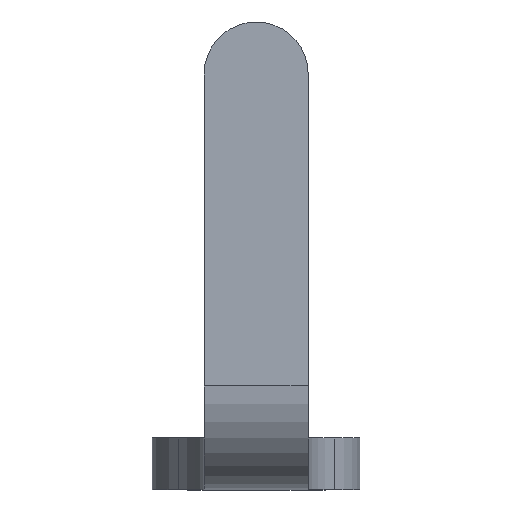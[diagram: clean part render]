
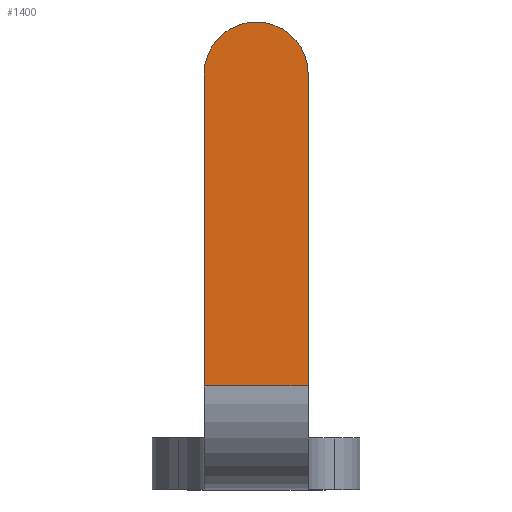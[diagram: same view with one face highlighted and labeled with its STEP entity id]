
A CAD part, front view. The second image highlights one B-rep face of the part: STEP entity #1400.
In plain terms, the highlighted planar face has unit normal (0, -1, 0).
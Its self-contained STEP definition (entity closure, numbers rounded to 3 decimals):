
#89 = EDGE_CURVE ( 'NONE', #1447, #2075, #1751, .T. ) ;
#95 = VERTEX_POINT ( 'NONE', #344 ) ;
#148 = AXIS2_PLACEMENT_3D ( 'NONE', #1920, #502, #1939 ) ;
#154 = CARTESIAN_POINT ( 'NONE',  ( 17.5, -55.002, -991.641 ) ) ;
#179 = AXIS2_PLACEMENT_3D ( 'NONE', #1261, #1233, #511 ) ;
#225 = ORIENTED_EDGE ( 'NONE', *, *, #297, .F. ) ;
#297 = EDGE_CURVE ( 'NONE', #341, #1447, #792, .T. ) ;
#299 = DIRECTION ( 'NONE',  ( 0., 0., -1. ) ) ;
#308 = CARTESIAN_POINT ( 'NONE',  ( 47.5, -55.002, -996.641 ) ) ;
#341 = VERTEX_POINT ( 'NONE', #1475 ) ;
#344 = CARTESIAN_POINT ( 'NONE',  ( 17.5, -55.002, -936.641 ) ) ;
#356 = ORIENTED_EDGE ( 'NONE', *, *, #772, .T. ) ;
#502 = DIRECTION ( 'NONE',  ( 0., 1., 0. ) ) ;
#511 = DIRECTION ( 'NONE',  ( -1., 0., 0. ) ) ;
#705 = EDGE_CURVE ( 'NONE', #95, #341, #2205, .T. ) ;
#745 = VECTOR ( 'NONE', #2224, 1000. ) ;
#772 = EDGE_CURVE ( 'NONE', #95, #2075, #1194, .T. ) ;
#792 = LINE ( 'NONE', #1509, #745 ) ;
#875 = FACE_OUTER_BOUND ( 'NONE', #1823, .T. ) ;
#1007 = CARTESIAN_POINT ( 'NONE',  ( 37.5, -55.002, -996.641 ) ) ;
#1009 = DIRECTION ( 'NONE',  ( -1., 0., 0. ) ) ;
#1194 = LINE ( 'NONE', #154, #2096 ) ;
#1233 = DIRECTION ( 'NONE',  ( 0., 1., 0. ) ) ;
#1261 = CARTESIAN_POINT ( 'NONE',  ( 27.5, -55.002, -936.641 ) ) ;
#1310 = ORIENTED_EDGE ( 'NONE', *, *, #89, .F. ) ;
#1400 = ADVANCED_FACE ( 'NONE', ( #875 ), #1573, .F. ) ;
#1447 = VERTEX_POINT ( 'NONE', #1007 ) ;
#1475 = CARTESIAN_POINT ( 'NONE',  ( 37.5, -55.002, -936.641 ) ) ;
#1509 = CARTESIAN_POINT ( 'NONE',  ( 37.5, -55.002, -991.641 ) ) ;
#1513 = ORIENTED_EDGE ( 'NONE', *, *, #705, .F. ) ;
#1573 = PLANE ( 'NONE',  #148 ) ;
#1751 = LINE ( 'NONE', #308, #1759 ) ;
#1759 = VECTOR ( 'NONE', #1009, 1000. ) ;
#1823 = EDGE_LOOP ( 'NONE', ( #1310, #225, #1513, #356 ) ) ;
#1920 = CARTESIAN_POINT ( 'NONE',  ( 47.5, -55.002, -991.641 ) ) ;
#1939 = DIRECTION ( 'NONE',  ( 0., 0., 1. ) ) ;
#1988 = CARTESIAN_POINT ( 'NONE',  ( 17.5, -55.002, -996.641 ) ) ;
#2075 = VERTEX_POINT ( 'NONE', #1988 ) ;
#2096 = VECTOR ( 'NONE', #299, 1000. ) ;
#2205 = CIRCLE ( 'NONE', #179, 10. ) ;
#2224 = DIRECTION ( 'NONE',  ( 0., 0., -1. ) ) ;
